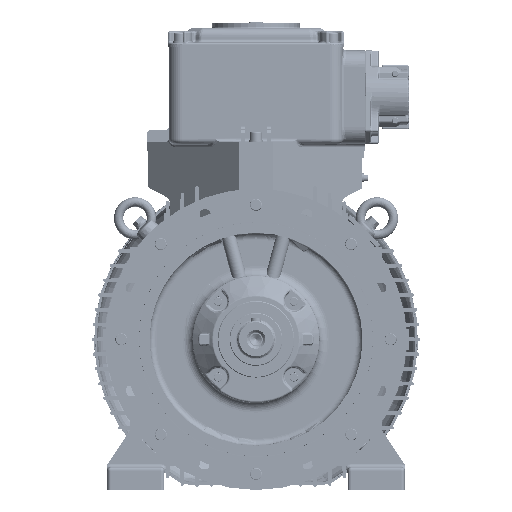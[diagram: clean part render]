
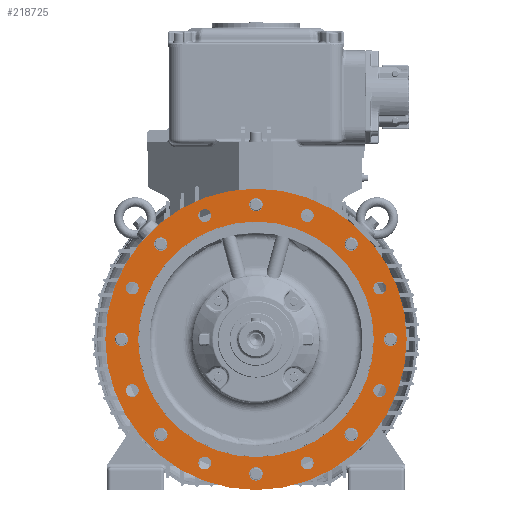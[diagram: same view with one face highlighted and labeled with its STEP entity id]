
A CAD part, left-side view. The second image highlights one B-rep face of the part: STEP entity #218725.
In plain terms, the highlighted planar face has unit normal (-1, 0, 0).
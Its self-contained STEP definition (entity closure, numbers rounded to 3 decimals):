
#38093=PLANE('',#230632);
#41745=CIRCLE('',#230593,10.);
#41746=CIRCLE('',#230595,10.);
#41747=CIRCLE('',#230597,10.);
#41748=CIRCLE('',#230599,10.);
#41749=CIRCLE('',#230601,10.);
#41750=CIRCLE('',#230603,10.);
#41751=CIRCLE('',#230605,10.);
#41752=CIRCLE('',#230607,10.);
#41753=CIRCLE('',#230610,9.5);
#41754=CIRCLE('',#230612,9.5);
#41755=CIRCLE('',#230614,9.5);
#41756=CIRCLE('',#230616,9.5);
#41757=CIRCLE('',#230618,9.5);
#41758=CIRCLE('',#230620,9.5);
#41759=CIRCLE('',#230622,9.5);
#41760=CIRCLE('',#230624,9.5);
#41761=CIRCLE('',#230626,225.);
#41763=CIRCLE('',#230633,175.919);
#79546=ORIENTED_EDGE('',*,*,#106341,.F.);
#79547=ORIENTED_EDGE('',*,*,#106332,.T.);
#79548=ORIENTED_EDGE('',*,*,#106331,.T.);
#79549=ORIENTED_EDGE('',*,*,#106330,.T.);
#79550=ORIENTED_EDGE('',*,*,#106329,.T.);
#79551=ORIENTED_EDGE('',*,*,#106328,.T.);
#79552=ORIENTED_EDGE('',*,*,#106327,.T.);
#79553=ORIENTED_EDGE('',*,*,#106326,.T.);
#79554=ORIENTED_EDGE('',*,*,#106325,.T.);
#79555=ORIENTED_EDGE('',*,*,#106343,.T.);
#79556=ORIENTED_EDGE('',*,*,#106340,.F.);
#79557=ORIENTED_EDGE('',*,*,#106339,.F.);
#79558=ORIENTED_EDGE('',*,*,#106338,.F.);
#79559=ORIENTED_EDGE('',*,*,#106337,.F.);
#79560=ORIENTED_EDGE('',*,*,#106336,.F.);
#79561=ORIENTED_EDGE('',*,*,#106335,.F.);
#79562=ORIENTED_EDGE('',*,*,#106334,.F.);
#79563=ORIENTED_EDGE('',*,*,#106333,.F.);
#106325=EDGE_CURVE('',#122545,#122545,#41745,.T.);
#106326=EDGE_CURVE('',#122546,#122546,#41746,.T.);
#106327=EDGE_CURVE('',#122547,#122547,#41747,.T.);
#106328=EDGE_CURVE('',#122548,#122548,#41748,.T.);
#106329=EDGE_CURVE('',#122549,#122549,#41749,.T.);
#106330=EDGE_CURVE('',#122550,#122550,#41750,.T.);
#106331=EDGE_CURVE('',#122551,#122551,#41751,.T.);
#106332=EDGE_CURVE('',#122552,#122552,#41752,.T.);
#106333=EDGE_CURVE('',#122553,#122553,#41753,.T.);
#106334=EDGE_CURVE('',#122554,#122554,#41754,.T.);
#106335=EDGE_CURVE('',#122555,#122555,#41755,.T.);
#106336=EDGE_CURVE('',#122556,#122556,#41756,.T.);
#106337=EDGE_CURVE('',#122557,#122557,#41757,.T.);
#106338=EDGE_CURVE('',#122558,#122558,#41758,.T.);
#106339=EDGE_CURVE('',#122559,#122559,#41759,.T.);
#106340=EDGE_CURVE('',#122560,#122560,#41760,.T.);
#106341=EDGE_CURVE('',#122561,#122561,#41761,.T.);
#106343=EDGE_CURVE('',#122563,#122563,#41763,.T.);
#122545=VERTEX_POINT('',#330865);
#122546=VERTEX_POINT('',#330868);
#122547=VERTEX_POINT('',#330871);
#122548=VERTEX_POINT('',#330874);
#122549=VERTEX_POINT('',#330877);
#122550=VERTEX_POINT('',#330880);
#122551=VERTEX_POINT('',#330883);
#122552=VERTEX_POINT('',#330886);
#122553=VERTEX_POINT('',#330890);
#122554=VERTEX_POINT('',#330893);
#122555=VERTEX_POINT('',#330896);
#122556=VERTEX_POINT('',#330899);
#122557=VERTEX_POINT('',#330902);
#122558=VERTEX_POINT('',#330905);
#122559=VERTEX_POINT('',#330908);
#122560=VERTEX_POINT('',#330911);
#122561=VERTEX_POINT('',#330914);
#122563=VERTEX_POINT('',#330923);
#135898=EDGE_LOOP('',(#79546));
#135899=EDGE_LOOP('',(#79547));
#135900=EDGE_LOOP('',(#79548));
#135901=EDGE_LOOP('',(#79549));
#135902=EDGE_LOOP('',(#79550));
#135903=EDGE_LOOP('',(#79551));
#135904=EDGE_LOOP('',(#79552));
#135905=EDGE_LOOP('',(#79553));
#135906=EDGE_LOOP('',(#79554));
#135907=EDGE_LOOP('',(#79555));
#135908=EDGE_LOOP('',(#79556));
#135909=EDGE_LOOP('',(#79557));
#135910=EDGE_LOOP('',(#79558));
#135911=EDGE_LOOP('',(#79559));
#135912=EDGE_LOOP('',(#79560));
#135913=EDGE_LOOP('',(#79561));
#135914=EDGE_LOOP('',(#79562));
#135915=EDGE_LOOP('',(#79563));
#147674=FACE_BOUND('',#135898,.T.);
#147675=FACE_BOUND('',#135899,.T.);
#147676=FACE_BOUND('',#135900,.T.);
#147677=FACE_BOUND('',#135901,.T.);
#147678=FACE_BOUND('',#135902,.T.);
#147679=FACE_BOUND('',#135903,.T.);
#147680=FACE_BOUND('',#135904,.T.);
#147681=FACE_BOUND('',#135905,.T.);
#147682=FACE_BOUND('',#135906,.T.);
#147683=FACE_BOUND('',#135907,.T.);
#147684=FACE_BOUND('',#135908,.T.);
#147685=FACE_BOUND('',#135909,.T.);
#147686=FACE_BOUND('',#135910,.T.);
#147687=FACE_BOUND('',#135911,.T.);
#147688=FACE_BOUND('',#135912,.T.);
#147689=FACE_BOUND('',#135913,.T.);
#147690=FACE_BOUND('',#135914,.T.);
#147691=FACE_BOUND('',#135915,.T.);
#218725=ADVANCED_FACE('',(#147674,#147675,#147676,#147677,#147678,#147679,
#147680,#147681,#147682,#147683,#147684,#147685,#147686,#147687,#147688,
#147689,#147690,#147691),#38093,.F.);
#230593=AXIS2_PLACEMENT_3D('',#330864,#267459,#267460);
#230595=AXIS2_PLACEMENT_3D('',#330867,#267463,#267464);
#230597=AXIS2_PLACEMENT_3D('',#330870,#267467,#267468);
#230599=AXIS2_PLACEMENT_3D('',#330873,#267471,#267472);
#230601=AXIS2_PLACEMENT_3D('',#330876,#267475,#267476);
#230603=AXIS2_PLACEMENT_3D('',#330879,#267479,#267480);
#230605=AXIS2_PLACEMENT_3D('',#330882,#267483,#267484);
#230607=AXIS2_PLACEMENT_3D('',#330885,#267487,#267488);
#230610=AXIS2_PLACEMENT_3D('',#330889,#267493,#267494);
#230612=AXIS2_PLACEMENT_3D('',#330892,#267497,#267498);
#230614=AXIS2_PLACEMENT_3D('',#330895,#267501,#267502);
#230616=AXIS2_PLACEMENT_3D('',#330898,#267505,#267506);
#230618=AXIS2_PLACEMENT_3D('',#330901,#267509,#267510);
#230620=AXIS2_PLACEMENT_3D('',#330904,#267513,#267514);
#230622=AXIS2_PLACEMENT_3D('',#330907,#267517,#267518);
#230624=AXIS2_PLACEMENT_3D('',#330910,#267521,#267522);
#230626=AXIS2_PLACEMENT_3D('',#330913,#267525,#267526);
#230632=AXIS2_PLACEMENT_3D('',#330921,#267537,#267538);
#230633=AXIS2_PLACEMENT_3D('',#330922,#267539,#267540);
#267459=DIRECTION('',(1.,0.,0.));
#267460=DIRECTION('',(0.,0.,-1.));
#267463=DIRECTION('',(1.,0.,0.));
#267464=DIRECTION('',(0.,0.,-1.));
#267467=DIRECTION('',(1.,0.,0.));
#267468=DIRECTION('',(0.,0.,-1.));
#267471=DIRECTION('',(1.,0.,0.));
#267472=DIRECTION('',(0.,0.,-1.));
#267475=DIRECTION('',(1.,0.,0.));
#267476=DIRECTION('',(0.,0.,-1.));
#267479=DIRECTION('',(1.,0.,0.));
#267480=DIRECTION('',(0.,0.,-1.));
#267483=DIRECTION('',(1.,0.,0.));
#267484=DIRECTION('',(0.,0.,-1.));
#267487=DIRECTION('',(1.,0.,0.));
#267488=DIRECTION('',(0.,0.,-1.));
#267493=DIRECTION('',(-1.,0.,0.));
#267494=DIRECTION('',(0.,-1.,0.));
#267497=DIRECTION('',(-1.,0.,0.));
#267498=DIRECTION('',(0.,-1.,0.));
#267501=DIRECTION('',(-1.,0.,0.));
#267502=DIRECTION('',(0.,-1.,0.));
#267505=DIRECTION('',(-1.,0.,0.));
#267506=DIRECTION('',(0.,-1.,0.));
#267509=DIRECTION('',(-1.,0.,0.));
#267510=DIRECTION('',(0.,-1.,0.));
#267513=DIRECTION('',(-1.,0.,0.));
#267514=DIRECTION('',(0.,-1.,0.));
#267517=DIRECTION('',(-1.,0.,0.));
#267518=DIRECTION('',(0.,-1.,0.));
#267521=DIRECTION('',(-1.,0.,0.));
#267522=DIRECTION('',(0.,-1.,0.));
#267525=DIRECTION('',(1.,0.,0.));
#267526=DIRECTION('',(0.,0.,1.));
#267537=DIRECTION('',(1.,0.,0.));
#267538=DIRECTION('',(0.,0.,1.));
#267539=DIRECTION('',(1.,0.,0.));
#267540=DIRECTION('',(0.,0.,1.));
#330864=CARTESIAN_POINT('',(-84.5,142.128,142.128));
#330865=CARTESIAN_POINT('',(-84.5,142.128,132.128));
#330867=CARTESIAN_POINT('',(-84.5,201.,0.));
#330868=CARTESIAN_POINT('',(-84.5,201.,-10.));
#330870=CARTESIAN_POINT('',(-84.5,142.128,-142.128));
#330871=CARTESIAN_POINT('',(-84.5,142.128,-152.128));
#330873=CARTESIAN_POINT('',(-84.5,0.,-201.));
#330874=CARTESIAN_POINT('',(-84.5,0.,-211.));
#330876=CARTESIAN_POINT('',(-84.5,-142.128,-142.128));
#330877=CARTESIAN_POINT('',(-84.5,-142.128,-152.128));
#330879=CARTESIAN_POINT('',(-84.5,-201.,0.));
#330880=CARTESIAN_POINT('',(-84.5,-201.,-10.));
#330882=CARTESIAN_POINT('',(-84.5,-142.128,142.128));
#330883=CARTESIAN_POINT('',(-84.5,-142.128,132.128));
#330885=CARTESIAN_POINT('',(-84.5,0.,201.));
#330886=CARTESIAN_POINT('',(-84.5,0.,191.));
#330889=CARTESIAN_POINT('',(-84.5,184.776,-76.537));
#330890=CARTESIAN_POINT('',(-84.5,175.276,-76.537));
#330892=CARTESIAN_POINT('',(-84.5,76.537,-184.776));
#330893=CARTESIAN_POINT('',(-84.5,67.037,-184.776));
#330895=CARTESIAN_POINT('',(-84.5,-76.537,-184.776));
#330896=CARTESIAN_POINT('',(-84.5,-86.037,-184.776));
#330898=CARTESIAN_POINT('',(-84.5,-184.776,-76.537));
#330899=CARTESIAN_POINT('',(-84.5,-194.276,-76.537));
#330901=CARTESIAN_POINT('',(-84.5,-184.776,76.537));
#330902=CARTESIAN_POINT('',(-84.5,-194.276,76.537));
#330904=CARTESIAN_POINT('',(-84.5,-76.537,184.776));
#330905=CARTESIAN_POINT('',(-84.5,-86.037,184.776));
#330907=CARTESIAN_POINT('',(-84.5,76.537,184.776));
#330908=CARTESIAN_POINT('',(-84.5,67.037,184.776));
#330910=CARTESIAN_POINT('',(-84.5,184.776,76.537));
#330911=CARTESIAN_POINT('',(-84.5,175.276,76.537));
#330913=CARTESIAN_POINT('',(-84.5,0.,0.));
#330914=CARTESIAN_POINT('',(-84.5,0.,225.));
#330921=CARTESIAN_POINT('',(-84.5,0.,242.195));
#330922=CARTESIAN_POINT('',(-84.5,0.,0.));
#330923=CARTESIAN_POINT('',(-84.5,0.,175.919));
